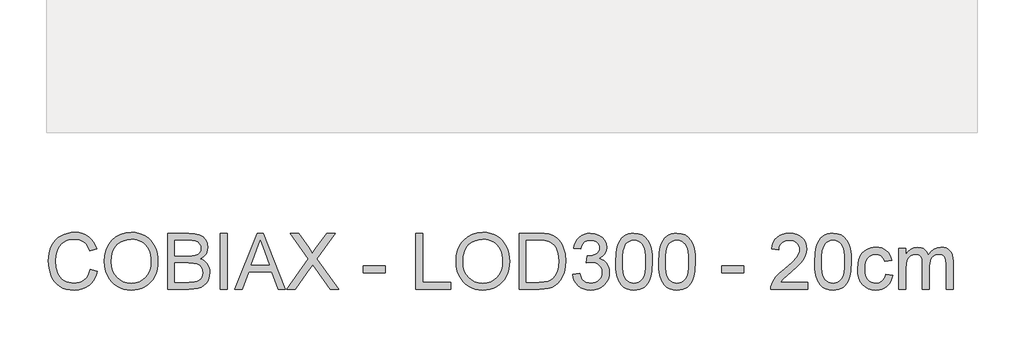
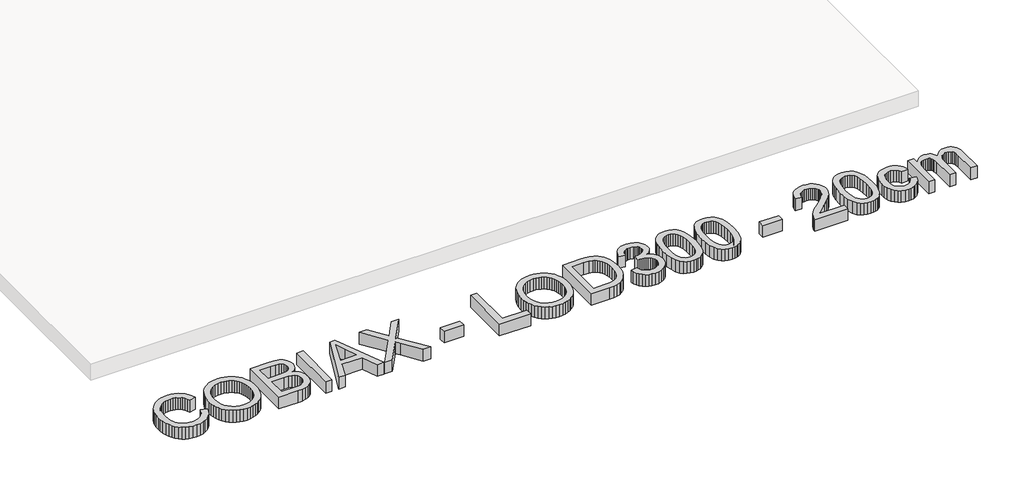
# One storey, part 18 of 18: 1 proxy.
"""IFC4 building model written with IfcOpenShell, lengths in millimetres."""

import ifcopenshell
import ifcopenshell.guid

model = None  # the IFC model being written
_history = None  # IfcOwnerHistory: only IFC2X3 demands one
_inside = {}  # id of a spatial element -> (the spatial element, [elements in it])
_under = {}  # id of a project, library or spatial element -> (it, [spatial elements below it])
_declared = {}  # id of a project -> (the project, [libraries it declares])
_typed = {}  # id of a type object -> (the type object, [elements of that type])
_made_of = {}  # id of a material, layer set ... -> (it, [elements and type objects made of it])


def new_model(schema):
    """Start an empty IFC model of exactly this schema.

    Asked for "IFC4X3", IfcOpenShell would pick the latest addendum, in which some entities
    have other attributes; the version numbers below select the first issue.
    IFC2X3 requires an IfcOwnerHistory on every rooted entity: one is made here for all.
    """
    global model, _history
    if schema == "IFC4X3":
        model = ifcopenshell.file(schema_version=(4, 3, 0, 0))
    else:
        model = ifcopenshell.file(schema=schema)
    _inside.clear()
    _under.clear()
    _declared.clear()
    _typed.clear()
    _made_of.clear()
    _history = None
    if model.schema == "IFC2X3":
        org = make("IfcOrganization", Name="unknown")
        user = make(
            "IfcPersonAndOrganization",
            ThePerson=make("IfcPerson", FamilyName="unknown"),
            TheOrganization=org,
        )
        app = make(
            "IfcApplication",
            ApplicationDeveloper=org,
            Version="unknown",
            ApplicationFullName="unknown",
            ApplicationIdentifier="unknown",
        )
        _history = make(
            "IfcOwnerHistory",
            OwningUser=user,
            OwningApplication=app,
            ChangeAction="ADDED",
            CreationDate=0,
        )
    return model


def make(cls, **values):
    """One entity of the class cls with the attributes given. An attribute that is None is left unset."""
    return model.create_entity(
        cls, **{name: value for name, value in values.items() if value is not None}
    )


def rooted(cls, **values):
    """An entity with a GlobalId (a new one), such as an element, a storey or a relation."""
    return make(cls, GlobalId=ifcopenshell.guid.new(), OwnerHistory=_history, **values)


def si_unit(unit_type, name, prefix=None):
    """IfcSIUnit, for example si_unit("LENGTHUNIT", "METRE", prefix="MILLI")."""
    return make("IfcSIUnit", UnitType=unit_type, Prefix=prefix, Name=name)


def assignment(units):
    """IfcUnitAssignment: the units of a project."""
    return None if units is None else make("IfcUnitAssignment", Units=units)


def point(xyz):
    """IfcCartesianPoint."""
    return None if xyz is None else make("IfcCartesianPoint", Coordinates=xyz)


def direction(xyz):
    """IfcDirection."""
    return None if xyz is None else make("IfcDirection", DirectionRatios=xyz)


def frame(location, z_axis=None, x_axis=None):
    """IfcAxis2Placement3D, a coordinate frame: its origin and axes. An axis left out is left unset."""
    return make(
        "IfcAxis2Placement3D",
        Location=point(location),
        Axis=direction(z_axis),
        RefDirection=direction(x_axis),
    )


def origin():
    """The frame at (0, 0, 0) with its axes left unset."""
    return frame((0.0, 0.0, 0.0))


def origin_with_axes():
    """The frame at (0, 0, 0) with the z axis (0, 0, 1) and the x axis (1, 0, 0) written out."""
    return frame((0.0, 0.0, 0.0), z_axis=(0.0, 0.0, 1.0), x_axis=(1.0, 0.0, 0.0))


def place(relative_to, where):
    """IfcLocalPlacement: puts the frame where relative to a parent placement (None: the world)."""
    return make(
        "IfcLocalPlacement", PlacementRelTo=relative_to, RelativePlacement=where
    )


def context(
    kind, dimensions, precision=None, world=None, true_north=None, identifier=None
):
    """IfcGeometricRepresentationContext, for example the 3D "Model" context."""
    return make(
        "IfcGeometricRepresentationContext",
        ContextIdentifier=identifier,
        ContextType=kind,
        CoordinateSpaceDimension=dimensions,
        Precision=precision,
        WorldCoordinateSystem=world,
        TrueNorth=true_north,
    )


def project(units=None, contexts=None):
    """IfcProject with its units and contexts."""
    return rooted(
        "IfcProject",
        Name="project",
        RepresentationContexts=contexts,
        UnitsInContext=assignment(units),
    )


def spatial(cls, under=None, at=None, **own):
    """A site, building, storey or space (cls), placed at a placement, below another one or the project."""
    s = rooted(cls, ObjectPlacement=at, **own)
    if under is not None:
        _under.setdefault(under.id(), (under, []))[1].append(s)
    return s


def polyline(points):
    """IfcPolyline through the points."""
    return make("IfcPolyline", Points=[point(p) for p in points])


def outline(outer, holes=None, kind="AREA"):
    """IfcArbitraryClosedProfileDef: a profile drawn as a closed curve; with holes, ...WithVoids."""
    if holes is None:
        return make("IfcArbitraryClosedProfileDef", ProfileType=kind, OuterCurve=outer)
    return make(
        "IfcArbitraryProfileDefWithVoids",
        ProfileType=kind,
        OuterCurve=outer,
        InnerCurves=holes,
    )


def extrude(swept, where, along, depth):
    """IfcExtrudedAreaSolid: the profile swept, set in the frame where, extruded along a direction by depth."""
    return make(
        "IfcExtrudedAreaSolid",
        SweptArea=swept,
        Position=where,
        ExtrudedDirection=direction(along),
        Depth=depth,
    )


def shape(context_of_items, identifier, shape_type, items):
    """IfcShapeRepresentation: the items that make up one representation, for example the "Body"."""
    return make(
        "IfcShapeRepresentation",
        ContextOfItems=context_of_items,
        RepresentationIdentifier=identifier,
        RepresentationType=shape_type,
        Items=items,
    )


def made_of(thing, what):
    """Note that an element or type object is made of a material, layer set ...; save() writes the relation."""
    if what is not None:
        _made_of.setdefault(what.id(), (what, []))[1].append(thing)
    return thing


def element(
    cls,
    number,
    at=None,
    inside=None,
    cuts=None,
    type_object=None,
    material=None,
    context=None,
    identifier="Body",
    shape_type=None,
    held_by="IfcProductDefinitionShape",
    body=None,
    shapes=None,
    **own,
):
    """One element of the class cls, such as IfcWall. Its Tag is "e" and its number.

    at: its placement. inside: the storey or other place that contains it. cuts: it is an
    opening in that element (IfcRelVoidsElement). A single representation is given by context,
    identifier, shape_type and body (its items); several are given by shapes. held_by: the class
    of the entity that holds the representations. save() writes the other relations.
    """
    e = rooted(cls, Tag="e%d" % number, ObjectPlacement=at, **own)
    if body is not None:
        shapes = [shape(context, identifier, shape_type, body)]
    if shapes is not None:
        e.Representation = make(held_by, Representations=shapes)
    if inside is not None:
        _inside.setdefault(inside.id(), (inside, []))[1].append(e)
    if cuts is not None:
        rooted(
            "IfcRelVoidsElement", RelatingBuildingElement=cuts, RelatedOpeningElement=e
        )
    if type_object is not None:
        _typed.setdefault(type_object.id(), (type_object, []))[1].append(e)
    return made_of(e, material)


def aggregate(whole, parts):
    """IfcRelAggregates: a whole, such as a stair, and the parts it consists of."""
    return rooted("IfcRelAggregates", RelatingObject=whole, RelatedObjects=parts)


def save(model, path):
    """Write the relations noted so far, then the file.

    IfcRelAggregates (storeys below a building ...), IfcRelContainedInSpatialStructure (elements
    in a storey), IfcRelDefinesByType, IfcRelAssociatesMaterial and IfcRelDeclares: one each for
    every whole, place, type object, material and project.
    """
    for whole, parts in _under.values():
        aggregate(whole, parts)
    for where, things in _inside.values():
        rooted(
            "IfcRelContainedInSpatialStructure",
            RelatedElements=things,
            RelatingStructure=where,
        )
    for kind, things in _typed.values():
        rooted("IfcRelDefinesByType", RelatedObjects=things, RelatingType=kind)
    for what, things in _made_of.values():
        rooted("IfcRelAssociatesMaterial", RelatedObjects=things, RelatingMaterial=what)
    for by, libraries in _declared.values():
        rooted("IfcRelDeclares", RelatingContext=by, RelatedDefinitions=libraries)
    model.write(path)


model = new_model("IFC4")

# Units and contexts
model_context = context("Model", 3, world=origin())
ifc_project = project(units=[si_unit("LENGTHUNIT", "METRE", prefix="MILLI")], contexts=[model_context])

# Site, building, storey
site = spatial("IfcSite", under=ifc_project)
building = spatial("IfcBuilding", under=site)
storey = spatial("IfcBuildingStorey", under=building, Name="COBIAX Slabs", Elevation=0.0)

# Proxy
placement = place(None, origin())
element("IfcBuildingElementProxy", 1, Name="600mm Arial", ObjectType="600mm Arial", at=placement, inside=storey, context=model_context, shape_type="SweptSolid", body=[
    extrude(outline(polyline([(9798.2153953, 9905.258219), (9873.5576279, 9885.8340497), (9858.64921, 9838.9796791), (9838.7927794, 9798.0390115), (9813.9883358, 9763.0120471), (9784.2358795, 9733.8987857), (9750.2067949, 9711.0119271), (9712.5724668, 9694.6641709), (9671.3328952, 9684.8555172), (9626.4880799, 9681.585966), (9580.5442173, 9684.0599724), (9539.097712, 9691.4819916), (9502.1485641, 9703.8520237), (9469.6967736, 9721.1700687), (9441.2962836, 9743.178609), (9416.5010371, 9769.6201274), (9395.3110342, 9800.4946239), (9377.7262748, 9835.8020983), (9363.9169044, 9874.0158406), (9354.0530684, 9913.6091403), (9348.1347668, 9954.5819975), (9346.1619996, 9996.9344122), (9348.3922842, 10042.3770357), (9355.083138, 10084.8214209), (9366.234561, 10124.2675678), (9381.8465531, 10160.7154765), (9401.5696266, 10193.5627401), (9425.0542935, 10222.206952), (9452.3005538, 10246.648112), (9483.3084074, 10266.8862203), (9517.0247923, 10282.7557299), (9552.3966461, 10294.0910938), (9589.4239689, 10300.8923122), (9628.1067607, 10303.159385), (9671.1995379, 10300.2255261), (9710.7146627, 10291.4239494), (9746.6521351, 10276.7546548), (9779.0119551, 10256.2176424), (9807.2606938, 10230.3555382), (9830.8649224, 10199.710968), (9849.8246407, 10164.2839318), (9864.1398488, 10124.0744298), (9788.7976162, 10106.1217884), (9776.9334219, 10135.7500846), (9762.6779946, 10161.0649644), (9746.0313343, 10182.0664278), (9726.993441, 10198.7544748), (9705.4539502, 10211.4693962), (9681.3024972, 10220.551483), (9654.5390821, 10226.0007351), (9625.1637048, 10227.8171524), (9591.3645465, 10225.8029985), (9560.4532618, 10219.7605367), (9532.4298508, 10209.6897671), (9507.2943135, 10195.5906896), (9485.3639481, 10178.0979008), (9466.9560527, 10157.8459969), (9452.0706275, 10134.8349781), (9440.7076724, 10109.0648444), (9426.3050923, 10053.9193333), (9421.5042322, 9997.081565), (9427.1880091, 9927.4782915), (9434.2927301, 9896.208322), (9444.2393395, 9867.2927971), (9457.1887858, 9841.3065327), (9473.3020171, 9818.8243443), (9492.5790337, 9799.8462318), (9515.0198354, 9784.3721954), (9539.5345719, 9772.3654468), (9565.0333926, 9763.7891978), (9591.5162978, 9758.6434484), (9618.9832872, 9756.9281986), (9651.7385804, 9759.2642493), (9681.8727143, 9766.2724013), (9709.385689, 9777.9526546), (9734.2775045, 9794.3050093), (9755.9595496, 9815.2558889), (9773.8432131, 9840.7317171), (9787.928495, 9870.7324938), (9798.2153953, 9905.258219)])), origin_with_axes(), (0.0, 0.0, 1.0), 150.0),
    extrude(outline(polyline([(9948.8998605, 9984.4264244), (9953.9214497, 10055.1241468), (9968.9862175, 10117.7100713), (9994.0941636, 10172.1841977), (10010.4143286, 10196.3793367), (10029.2452883, 10218.5465261), (10072.3334669, 10255.5646519), (10121.2525753, 10282.0061703), (10176.0026132, 10297.8710813), (10236.5835807, 10303.159385), (10277.1333737, 10300.6761816), (10315.6414215, 10293.2265712), (10352.1077243, 10280.8105538), (10386.532282, 10263.4281295), (10417.9494044, 10241.6035302), (10445.3934012, 10215.8609876), (10468.8642725, 10186.2005017), (10488.3620182, 10152.6220726), (10503.6843033, 10115.8890554), (10514.6287927, 10076.7648052), (10521.1954863, 10035.249322), (10523.3843842, 9991.3426059), (10521.0805232, 9946.8564756), (10514.1689402, 9904.7799724), (10502.6496352, 9865.1130963), (10486.5226083, 9827.8558473), (10466.1695369, 9793.9923096), (10441.9720986, 9764.5065677), (10413.9302936, 9739.3986215), (10382.0441216, 9718.6684711), (10347.5689802, 9702.4448751), (10311.7602665, 9690.8565922), (10274.6179805, 9683.9036225), (10236.1421223, 9681.585966), (10194.8841566, 9684.1473444), (10155.870271, 9691.8314795), (10119.1004656, 9704.6383715), (10084.5747403, 9722.5680202), (10053.1944061, 9744.9260485), (10025.8607739, 9771.018079), (10002.5738436, 9800.8441118), (9983.3336153, 9834.4041468), (9968.2688476, 9870.3508162), (9957.5082992, 9907.3367523), (9951.0519702, 9945.361955), (9948.8998605, 9984.4264244)]), holes=[polyline([(10024.2420931, 9983.6906604), (10028.0082851, 9933.7414825), (10039.3068608, 9889.402505), (10058.1378205, 9850.673728), (10084.5011639, 9817.5551514), (10116.5482842, 9791.0308595), (10152.4305743, 9772.0849368), (10192.1480343, 9760.7173831), (10235.700664, 9756.9281986), (10279.9982547, 9760.7541713), (10320.1847641, 9772.2320896), (10356.2601923, 9791.3619533), (10388.2245392, 9818.1437626), (10414.3947446, 9851.961315), (10433.0877485, 9892.1984082), (10444.3035508, 9938.8550422), (10448.0421516, 9991.9312171), (10446.4418649, 10026.4109571), (10441.6410049, 10058.6282228), (10433.6395715, 10088.5830143), (10422.4375647, 10116.2753315), (10408.1591448, 10141.3418909), (10390.9284718, 10163.4194092), (10370.7455459, 10182.5078862), (10347.6103669, 10198.607322), (10322.2403048, 10211.3866228), (10295.3527295, 10220.5146948), (10266.9476409, 10225.991538), (10237.0250391, 10227.8171524), (10194.9853241, 10224.2992808), (10155.9806356, 10213.7456661), (10120.0109735, 10196.1563082), (10087.0763379, 10171.5312071), (10059.5863558, 10138.6839435), (10039.9506543, 10096.4280978), (10028.1692334, 10044.7636701), (10024.2420931, 9983.6906604)])]), origin_with_axes(), (0.0, 0.0, 1.0), 150.0),
    extrude(outline(polyline([(10626.979954, 9691.003745), (10626.979954, 10293.7416059), (10856.9797774, 10293.7416059), (10920.2370865, 10289.3086279), (10969.6252443, 10276.0096938), (10989.7024042, 10265.9527197), (11007.4803016, 10253.5137098), (11022.9589366, 10238.6926639), (11036.1383091, 10221.4895821), (11054.1829209, 10183.8184658), (11060.1977915, 10144.3815159), (11055.1394141, 10108.0899571), (11039.9642818, 10073.968902), (11014.56203, 10044.1152781), (10978.8222942, 10020.6260127), (11001.562, 10010.9323222), (11021.5149998, 9998.3323638), (11038.6812934, 9982.8261377), (11053.0608808, 9964.4136439), (11064.423836, 9943.6559023), (11072.5402325, 9921.113933), (11077.4100704, 9896.7877361), (11079.0333497, 9870.6773115), (11074.6003717, 9828.6467935), (11061.3014375, 9789.6696962), (11041.4542039, 9756.5235284), (11017.3763273, 9731.9857993), (10987.8905854, 9714.2170989), (10951.8197558, 9701.3780173), (10907.986616, 9693.5973131), (10855.2139438, 9691.003745), (10626.979954, 9691.003745)]), holes=[polyline([(10702.3221866, 10048.87935), (10839.9100528, 10048.87935), (10888.0290178, 10050.4980307), (10920.2554806, 10055.3540731), (10948.3800591, 10066.5192916), (10968.5951747, 10083.2395283), (10980.7904629, 10105.2572657), (10984.8555589, 10132.3149865), (10981.0663744, 10158.5817609), (10969.6988207, 10181.464021), (10951.2679328, 10199.3246919), (10926.2887453, 10210.5266986), (10887.9554414, 10216.4312047), (10829.4622042, 10218.3993733), (10702.3221866, 10218.3993733), (10702.3221866, 10048.87935)]), polyline([(10702.3221866, 9766.3459777), (10856.8326246, 9766.3459777), (10912.7506879, 9769.2890336), (10938.7047626, 9775.818939), (10960.0603125, 9785.6965706), (10977.4243426, 9799.8416333), (10991.4038584, 9819.1738322), (11000.6193024, 9842.8286445), (11003.6911171, 9869.9415475), (11000.0858735, 9901.4322463), (10989.2701429, 9928.5083611), (10970.3794024, 9949.67997), (10942.5491295, 9963.4571507), (10903.1305737, 9971.0171257), (10849.4749847, 9973.5371173), (10702.3221866, 9973.5371173), (10702.3221866, 9766.3459777)])]), origin_with_axes(), (0.0, 0.0, 1.0), 150.0),
    extrude(outline(polyline([(11192.0466986, 9691.003745), (11192.0466986, 10293.7416059), (11267.3889312, 10293.7416059), (11267.3889312, 9691.003745), (11192.0466986, 9691.003745)])), origin_with_axes(), (0.0, 0.0, 1.0), 150.0),
    extrude(outline(polyline([(11347.8815118, 9691.003745), (11588.4763366, 10293.7416059), (11652.6349566, 10293.7416059), (11893.2297814, 9691.003745), (11813.6201177, 9691.003745), (11744.6054554, 9879.3593266), (11496.358685, 9879.3593266), (11427.4911755, 9691.003745), (11347.8815118, 9691.003745)]), holes=[polyline([(11524.0234111, 9954.7015592), (11717.0878821, 9954.7015592), (11662.7884996, 10102.8844268), (11620.5556466, 10218.3993733), (11583.0316831, 10115.8338731), (11524.0234111, 9954.7015592)])]), origin_with_axes(), (0.0, 0.0, 1.0), 150.0),
    extrude(outline(polyline([(11907.7979084, 9691.003745), (12140.1521766, 10019.4487903), (11945.4690247, 10293.7416059), (12035.8208428, 10293.7416059), (12145.4496773, 10139.3783208), (12171.6060872, 10100.2724647), (12182.3850296, 10079.1928264), (12225.6479523, 10140.4083904), (12334.0995644, 10293.7416059), (12425.7757576, 10293.7416059), (12231.0926058, 10018.5658736), (12463.4468739, 9691.003745), (12373.0950559, 9691.003745), (12218.2903124, 9909.3784974), (12186.0638496, 9954.7015592), (12150.6000252, 9904.9639134), (11999.4741016, 9691.003745), (11907.7979084, 9691.003745)])), origin_with_axes(), (0.0, 0.0, 1.0), 150.0),
    extrude(outline(polyline([(12727.1446881, 9869.9415475), (12727.1446881, 9945.2837801), (12962.589165, 9945.2837801), (12962.589165, 9869.9415475), (12727.1446881, 9869.9415475)])), origin_with_axes(), (0.0, 0.0, 1.0), 150.0),
    extrude(outline(polyline([(13292.2114327, 9691.003745), (13292.2114327, 10293.7416059), (13367.5536653, 10293.7416059), (13367.5536653, 9766.3459777), (13668.9225957, 9766.3459777), (13668.9225957, 9691.003745), (13292.2114327, 9691.003745)])), origin_with_axes(), (0.0, 0.0, 1.0), 150.0),
    extrude(outline(polyline([(13725.4292702, 9984.4264244), (13730.4508594, 10055.1241468), (13745.5156271, 10117.7100713), (13770.6235733, 10172.1841977), (13786.9437383, 10196.3793367), (13805.7746979, 10218.5465261), (13848.8628766, 10255.5646519), (13897.7819849, 10282.0061703), (13952.5320229, 10297.8710813), (14013.1129904, 10303.159385), (14053.6627833, 10300.6761816), (14092.1708312, 10293.2265712), (14128.637134, 10280.8105538), (14163.0616917, 10263.4281295), (14194.4788141, 10241.6035302), (14221.9228109, 10215.8609876), (14245.3936822, 10186.2005017), (14264.8914279, 10152.6220726), (14280.213713, 10115.8890554), (14291.1582024, 10076.7648052), (14297.724896, 10035.249322), (14299.9137939, 9991.3426059), (14297.6099329, 9946.8564756), (14290.6983499, 9904.7799724), (14279.1790449, 9865.1130963), (14263.052018, 9827.8558473), (14242.6989466, 9793.9923096), (14218.5015083, 9764.5065677), (14190.4597033, 9739.3986215), (14158.5735313, 9718.6684711), (14124.0983898, 9702.4448751), (14088.2896761, 9690.8565922), (14051.1473902, 9683.9036225), (14012.671532, 9681.585966), (13971.4135663, 9684.1473444), (13932.3996807, 9691.8314795), (13895.6298753, 9704.6383715), (13861.10415, 9722.5680202), (13829.7238158, 9744.9260485), (13802.3901836, 9771.018079), (13779.1032533, 9800.8441118), (13759.8630249, 9834.4041468), (13744.7982572, 9870.3508162), (13734.0377089, 9907.3367523), (13727.5813799, 9945.361955), (13725.4292702, 9984.4264244)]), holes=[polyline([(13800.7715028, 9983.6906604), (13804.5376947, 9933.7414825), (13815.8362705, 9889.402505), (13834.6672301, 9850.673728), (13861.0305736, 9817.5551514), (13893.0776939, 9791.0308595), (13928.959984, 9772.0849368), (13968.6774439, 9760.7173831), (14012.2300736, 9756.9281986), (14056.5276644, 9760.7541713), (14096.7141738, 9772.2320896), (14132.789602, 9791.3619533), (14164.7539488, 9818.1437626), (14190.9241543, 9851.961315), (14209.6171582, 9892.1984082), (14220.8329605, 9938.8550422), (14224.5715613, 9991.9312171), (14222.9712746, 10026.4109571), (14218.1704145, 10058.6282228), (14210.1689811, 10088.5830143), (14198.9669744, 10116.2753315), (14184.6885545, 10141.3418909), (14167.4578815, 10163.4194092), (14147.2749555, 10182.5078862), (14124.1397766, 10198.607322), (14098.7697145, 10211.3866228), (14071.8821392, 10220.5146948), (14043.4770506, 10225.991538), (14013.5544488, 10227.8171524), (13971.5147338, 10224.2992808), (13932.5100453, 10213.7456661), (13896.5403832, 10196.1563082), (13863.6057476, 10171.5312071), (13836.1157655, 10138.6839435), (13816.480064, 10096.4280978), (13804.6986431, 10044.7636701), (13800.7715028, 9983.6906604)])]), origin_with_axes(), (0.0, 0.0, 1.0), 150.0),
    extrude(outline(polyline([(14403.5093637, 9691.003745), (14403.5093637, 10293.7416059), (14611.4362674, 10293.7416059), (14673.5715364, 10291.5711022), (14719.0049628, 10285.0595909), (14767.0503513, 10268.3209601), (14807.5909472, 10241.943821), (14829.9305814, 10220.3859361), (14849.2719773, 10196.032148), (14865.6151349, 10168.8824568), (14878.9600543, 10138.9368624), (14889.3251295, 10106.4712763), (14896.7287546, 10071.7616101), (14902.6516548, 9995.6100371), (14898.641741, 9930.9179882), (14886.6119998, 9873.9882494), (14868.2914764, 9825.5197966), (14845.4092163, 9786.2116054), (14819.0688655, 9755.1807591), (14790.3740698, 9731.5443409), (14757.4302372, 9714.0147638), (14718.3427752, 9701.3044409), (14673.0381075, 9693.578919), (14621.4426577, 9691.003745), (14403.5093637, 9691.003745)]), holes=[polyline([(14478.8515963, 9766.3459777), (14612.1720314, 9766.3459777), (14667.3175425, 9769.0683044), (14709.1457253, 9777.2352847), (14740.7100005, 9790.3686719), (14765.0637886, 9807.9902195), (14791.2385925, 9840.6029584), (14810.9018852, 9882.8174173), (14823.2075379, 9934.8175374), (14827.3094222, 9996.7872594), (14825.2998668, 10040.5284287), (14819.2712006, 10078.8985208), (14809.2234236, 10111.8975357), (14795.1565358, 10139.5254736), (14778.2109714, 10162.4077337), (14759.5271645, 10181.1697154), (14739.1051153, 10195.8114188), (14716.9448236, 10206.3328439), (14673.6083246, 10215.382741), (14610.1118922, 10218.3993733), (14478.8515963, 10218.3993733), (14478.8515963, 9766.3459777)])]), origin_with_axes(), (0.0, 0.0, 1.0), 150.0),
    extrude(outline(polyline([(14977.9938874, 9851.1059893), (15053.33612, 9860.5237684), (15070.2035095, 9813.1773556), (15081.5756616, 9795.2706995), (15094.9067854, 9781.2084103), (15110.5003835, 9770.5858177), (15128.6599585, 9762.9982515), (15149.3855104, 9758.4457118), (15172.6770392, 9756.9281986), (15199.9738833, 9759.0159289), (15224.3276713, 9765.2791199), (15245.7384035, 9775.7177715), (15264.2060796, 9790.3318837), (15279.0777093, 9808.0270077), (15289.7003019, 9827.7086945), (15296.0738575, 9849.376944), (15298.198376, 9873.0317563), (15296.0922516, 9895.5599299), (15289.7738783, 9916.0555556), (15279.2432562, 9934.5186332), (15264.5003852, 9950.9491628), (15246.5109557, 9964.4366365), (15226.2406577, 9974.0705462), (15203.6894914, 9979.8508921), (15178.8574567, 9981.777674), (15155.0554917, 9979.7175349), (15126.0296022, 9973.5371173), (15134.4173117, 10048.87935), (15146.4838412, 10047.9964332), (15191.622962, 10053.4042985), (15231.9796168, 10069.6278945), (15248.5894889, 10081.896759), (15260.4536833, 10097.0718913), (15267.5721999, 10115.1532914), (15269.9450388, 10136.1409592), (15268.2251904, 10153.1784941), (15263.0656454, 10168.6801217), (15254.4664038, 10182.6458419), (15242.4274655, 10195.0756548), (15227.6753975, 10205.2797817), (15210.9367667, 10212.5684437), (15171.4998168, 10218.3993733), (15150.8432428, 10216.9278454), (15131.9892906, 10212.5132614), (15114.9379601, 10205.1556215), (15099.6892514, 10194.8549256), (15086.6202435, 10181.6111738), (15076.1080155, 10165.424366), (15068.1525673, 10146.2945023), (15062.7538991, 10124.2215826), (14987.4116665, 10133.6393616), (14996.3420019, 10169.6090237), (15009.5949508, 10201.2928606), (15027.1705131, 10228.6908721), (15049.0686888, 10251.8030585), (15074.5996993, 10270.151173), (15103.0737657, 10283.2569691), (15134.4908881, 10291.1204467), (15168.8510665, 10293.7416059), (15216.2158734, 10288.5728639), (15259.7179193, 10273.0666378), (15296.3957542, 10248.6024851), (15323.2879281, 10216.5599634), (15339.7874355, 10179.6430051), (15345.2872714, 10140.5555432), (15340.063347, 10104.1352256), (15324.391574, 10071.0994225), (15298.4926816, 10042.9564498), (15262.5873988, 10021.2146239), (15287.695345, 10013.3603433), (15309.7498706, 10002.1583366), (15328.7509757, 9987.6086037), (15344.6986602, 9969.7111446), (15357.3170126, 9948.9074178), (15366.3301215, 9925.6388816), (15371.7379868, 9899.905536), (15373.5406086, 9871.7073811), (15369.935365, 9833.4844418), (15359.1196344, 9798.2781348), (15341.0934166, 9766.0884603), (15315.8567117, 9736.915418), (15285.110974, 9712.7087828), (15250.5576576, 9695.418329), (15212.1967626, 9685.0440567), (15170.0282889, 9681.585966), (15131.9157142, 9684.538219), (15097.1876538, 9693.394978), (15065.8441078, 9708.1562431), (15037.8850762, 9728.8220142), (15014.4417961, 9754.1782807), (14996.6455045, 9783.011032), (14984.4962016, 9815.3202683), (14977.9938874, 9851.1059893)])), origin_with_axes(), (0.0, 0.0, 1.0), 150.0),
    extrude(outline(polyline([(15439.4650621, 9987.5166332), (15445.0016862, 10083.9936864), (15451.9224662, 10124.9067628), (15461.6115582, 10160.9362057), (15474.0275756, 10192.3763207), (15489.1291315, 10219.5214134), (15506.9162259, 10242.3714838), (15527.388859, 10260.926532), (15550.6160084, 10275.2831268), (15576.6666522, 10285.5378375), (15605.5407903, 10291.6906638), (15637.2384227, 10293.7416059), (15683.6651305, 10288.8855636), (15725.235796, 10274.3174366), (15760.0006445, 10250.607442), (15786.0099016, 10218.3257969), (15805.6548001, 10177.7484129), (15821.3265731, 10129.1512013), (15831.5904808, 10067.4389966), (15835.0117833, 9987.5166332), (15829.5303416, 9891.5914029), (15822.6785395, 9850.8162823), (15813.0860164, 9814.8328246), (15800.7665681, 9783.378914), (15785.7339901, 9756.1924346), (15767.9882823, 9733.2733863), (15747.5294449, 9714.6217691), (15724.2747043, 9700.1686053), (15698.141287, 9689.8449168), (15669.1291932, 9683.6507037), (15637.2384227, 9681.585966), (15595.7413337, 9685.1728154), (15558.9531342, 9695.9333638), (15526.8738242, 9713.867611), (15499.5034037, 9738.9755572), (15473.2366293, 9784.3629984), (15454.4746475, 9840.9156581), (15443.2174585, 9908.6335363), (15439.4650621, 9987.5166332)]), holes=[polyline([(15514.8072947, 9987.663786), (15517.0145867, 9922.1669952), (15523.6364626, 9869.1506012), (15534.6729225, 9828.6146039), (15550.1239663, 9800.5590032), (15568.8123716, 9781.4705262), (15589.5609162, 9767.8358997), (15612.3695999, 9759.6551239), (15637.2384227, 9756.9281986), (15662.1072456, 9759.6643209), (15684.9159293, 9767.8726879), (15705.6644738, 9781.5532996), (15724.3528792, 9800.706156), (15739.803923, 9828.8077419), (15750.8403828, 9869.3345422), (15757.4622588, 9922.2865569), (15759.6695507, 9987.663786), (15757.5358352, 10051.4269328), (15751.1346884, 10103.5098262), (15740.4661106, 10143.9124664), (15725.5301016, 10172.6348531), (15707.1543959, 10192.6568307), (15686.1667281, 10206.9582433), (15662.5670981, 10215.5390908), (15636.3555059, 10218.3993733), (15611.6154418, 10215.8793817), (15589.1930342, 10208.3194067), (15569.0882831, 10195.7194483), (15551.3011887, 10178.0795067), (15535.3351101, 10146.8095371), (15523.9307682, 10104.6502604), (15517.0881631, 10051.6016767), (15514.8072947, 9987.663786)])]), origin_with_axes(), (0.0, 0.0, 1.0), 150.0),
    extrude(outline(polyline([(15900.9362369, 9987.5166332), (15906.4728609, 10083.9936864), (15913.3936409, 10124.9067628), (15923.082733, 10160.9362057), (15935.4987503, 10192.3763207), (15950.6003062, 10219.5214134), (15968.3874007, 10242.3714838), (15988.8600337, 10260.926532), (16012.0871832, 10275.2831268), (16038.137827, 10285.5378375), (16067.0119651, 10291.6906638), (16098.7095975, 10293.7416059), (16145.1363053, 10288.8855636), (16186.7069707, 10274.3174366), (16221.4718193, 10250.607442), (16247.4810763, 10218.3257969), (16267.1259749, 10177.7484129), (16282.7977479, 10129.1512013), (16293.0616555, 10067.4389966), (16296.4829581, 9987.5166332), (16291.0015164, 9891.5914029), (16284.1497142, 9850.8162823), (16274.5571912, 9814.8328246), (16262.2377429, 9783.378914), (16247.2051648, 9756.1924346), (16229.4594571, 9733.2733863), (16209.0006196, 9714.6217691), (16185.745879, 9700.1686053), (16159.6124618, 9689.8449168), (16130.6003679, 9683.6507037), (16098.7095975, 9681.585966), (16057.2125084, 9685.1728154), (16020.4243089, 9695.9333638), (15988.3449989, 9713.867611), (15960.9745785, 9738.9755572), (15934.707804, 9784.3629984), (15915.9458223, 9840.9156581), (15904.6886332, 9908.6335363), (15900.9362369, 9987.5166332)]), holes=[polyline([(15976.2784695, 9987.663786), (15978.4857615, 9922.1669952), (15985.1076374, 9869.1506012), (15996.1440972, 9828.6146039), (16011.595141, 9800.5590032), (16030.2835464, 9781.4705262), (16051.0320909, 9767.8358997), (16073.8407746, 9759.6551239), (16098.7095975, 9756.9281986), (16123.5784204, 9759.6643209), (16146.3871041, 9767.8726879), (16167.1356486, 9781.5532996), (16185.8240539, 9800.706156), (16201.2750977, 9828.8077419), (16212.3115576, 9869.3345422), (16218.9334335, 9922.2865569), (16221.1407255, 9987.663786), (16219.0070099, 10051.4269328), (16212.6058632, 10103.5098262), (16201.9372853, 10143.9124664), (16187.0012763, 10172.6348531), (16168.6255707, 10192.6568307), (16147.6379028, 10206.9582433), (16124.0382729, 10215.5390908), (16097.8266807, 10218.3993733), (16073.0866165, 10215.8793817), (16050.6642089, 10208.3194067), (16030.5594579, 10195.7194483), (16012.7723634, 10178.0795067), (15996.8062848, 10146.8095371), (15985.401943, 10104.6502604), (15978.5593379, 10051.6016767), (15976.2784695, 9987.663786)])]), origin_with_axes(), (0.0, 0.0, 1.0), 150.0),
    extrude(outline(polyline([(16579.0163304, 9869.9415475), (16579.0163304, 9945.2837801), (16814.4608073, 9945.2837801), (16814.4608073, 9869.9415475), (16579.0163304, 9869.9415475)])), origin_with_axes(), (0.0, 0.0, 1.0), 150.0),
    extrude(outline(polyline([(17501.9586799, 9766.3459777), (17501.9586799, 9691.003745), (17106.4119587, 9691.003745), (17108.0674277, 9717.5280369), (17114.5053626, 9742.9486828), (17133.0834033, 9783.5444609), (17160.2698828, 9822.9262285), (17199.5964681, 9864.1474061), (17254.5948263, 9910.2614142), (17335.8967473, 9982.4766498), (17384.6778998, 10035.7827509), (17398.905736, 10057.561365), (17409.0684761, 10079.0456736), (17415.1661202, 10100.2356765), (17417.1986682, 10121.1313738), (17415.2810833, 10140.7900679), (17409.5283286, 10158.8576724), (17399.9404041, 10175.3341873), (17386.5173098, 10190.2196125), (17370.0040067, 10202.5482579), (17351.145456, 10211.3544331), (17329.9416575, 10216.6381383), (17306.3926113, 10218.3993733), (17281.5835692, 10216.679525), (17259.3956864, 10211.51998), (17239.8289627, 10202.9207384), (17222.8833983, 10190.8818001), (17209.1751955, 10175.8078353), (17199.3205566, 10158.1035143), (17193.3194815, 10137.768837), (17191.1719704, 10114.8038035), (17115.8297378, 10124.2215826), (17122.3090594, 10163.1159065), (17134.0950788, 10197.0990058), (17151.187796, 10226.1708805), (17173.587211, 10250.3315305), (17200.778289, 10269.3234385), (17232.2459951, 10282.8890871), (17267.9903295, 10291.0284762), (17308.011292, 10293.7416059), (17348.3909395, 10290.7249736), (17384.3284119, 10281.6750765), (17415.8237092, 10266.5919147), (17442.8768315, 10245.4754882), (17464.6048618, 10219.8892954), (17480.1248835, 10191.3968349), (17489.4368965, 10159.9981066), (17492.5409008, 10125.6931105), (17489.1931747, 10089.6590691), (17479.1499962, 10054.2504271), (17461.3261135, 10018.2347798), (17434.6362748, 9980.3797225), (17392.090722, 9935.1854193), (17326.6996974, 9877.1520346), (17240.0266993, 9804.6792816), (17206.034403, 9766.3459777), (17501.9586799, 9766.3459777)])), origin_with_axes(), (0.0, 0.0, 1.0), 150.0),
    extrude(outline(polyline([(17577.3009125, 9987.5166332), (17582.8375365, 10083.9936864), (17589.7583166, 10124.9067628), (17599.4474086, 10160.9362057), (17611.8634259, 10192.3763207), (17626.9649818, 10219.5214134), (17644.7520763, 10242.3714838), (17665.2247093, 10260.926532), (17688.4518588, 10275.2831268), (17714.5025026, 10285.5378375), (17743.3766407, 10291.6906638), (17775.0742731, 10293.7416059), (17821.5009809, 10288.8855636), (17863.0716464, 10274.3174366), (17897.8364949, 10250.607442), (17923.845752, 10218.3257969), (17943.4906505, 10177.7484129), (17959.1624235, 10129.1512013), (17969.4263312, 10067.4389966), (17972.8476337, 9987.5166332), (17967.366192, 9891.5914029), (17960.5143898, 9850.8162823), (17950.9218668, 9814.8328246), (17938.6024185, 9783.378914), (17923.5698405, 9756.1924346), (17905.8241327, 9733.2733863), (17885.3652953, 9714.6217691), (17862.1105546, 9700.1686053), (17835.9771374, 9689.8449168), (17806.9650436, 9683.6507037), (17775.0742731, 9681.585966), (17733.5771841, 9685.1728154), (17696.7889845, 9695.9333638), (17664.7096746, 9713.867611), (17637.3392541, 9738.9755572), (17611.0724797, 9784.3629984), (17592.3104979, 9840.9156581), (17581.0533089, 9908.6335363), (17577.3009125, 9987.5166332)]), holes=[polyline([(17652.6431451, 9987.663786), (17654.8504371, 9922.1669952), (17661.472313, 9869.1506012), (17672.5087729, 9828.6146039), (17687.9598166, 9800.5590032), (17706.648222, 9781.4705262), (17727.3967665, 9767.8358997), (17750.2054502, 9759.6551239), (17775.0742731, 9756.9281986), (17799.943096, 9759.6643209), (17822.7517797, 9767.8726879), (17843.5003242, 9781.5532996), (17862.1887296, 9800.706156), (17877.6397734, 9828.8077419), (17888.6762332, 9869.3345422), (17895.2981091, 9922.2865569), (17897.5054011, 9987.663786), (17895.3716855, 10051.4269328), (17888.9705388, 10103.5098262), (17878.301961, 10143.9124664), (17863.3659519, 10172.6348531), (17844.9902463, 10192.6568307), (17824.0025785, 10206.9582433), (17800.4029485, 10215.5390908), (17774.1913563, 10218.3993733), (17749.4512921, 10215.8793817), (17727.0288845, 10208.3194067), (17706.9241335, 10195.7194483), (17689.137039, 10178.0795067), (17673.1709604, 10146.8095371), (17661.7666186, 10104.6502604), (17654.9240135, 10051.6016767), (17652.6431451, 9987.663786)])]), origin_with_axes(), (0.0, 0.0, 1.0), 150.0),
    extrude(outline(polyline([(18340.1410177, 9851.1059893), (18415.4832503, 9841.6882103), (18407.2886789, 9806.137014), (18394.4771884, 9774.6785048), (18377.0487789, 9747.3126829), (18355.0034503, 9724.0395482), (18329.2701047, 9705.466106), (18300.7776442, 9692.1993615), (18269.5260687, 9684.2393149), (18235.5153783, 9681.585966), (18193.2595326, 9685.2877785), (18155.3722856, 9696.3932163), (18121.8536373, 9714.9022792), (18092.7035877, 9740.8149672), (18069.1085563, 9773.6438367), (18052.2549624, 9812.9014441), (18042.142806, 9858.5877894), (18038.7720873, 9910.7028726), (18044.5294405, 9977.7493662), (18051.726132, 10007.9202883), (18061.8015001, 10035.8563273), (18074.8245228, 10060.9964632), (18090.8641778, 10082.7796758), (18109.9204651, 10101.2059652), (18131.9933848, 10116.2753315), (18156.085057, 10127.992373), (18181.1976017, 10136.3616884), (18207.3310189, 10141.3832776), (18234.4853087, 10143.0571407), (18267.9119865, 10140.7578783), (18298.1472879, 10133.8600908), (18325.1912131, 10122.3637785), (18349.043762, 10106.2689412), (18369.3002643, 10085.943461), (18385.55605, 10061.7552198), (18397.811119, 10033.7042177), (18406.0654712, 10001.7904546), (18330.7232386, 9992.3726755), (18317.0564225, 10025.2429318), (18295.7744491, 10048.8057736), (18268.0545407, 10062.9876245), (18235.0739199, 10067.7149081), (18209.4739315, 10065.3880545), (18186.3847378, 10058.4074936), (18165.8063387, 10046.7732255), (18147.7387342, 10030.4852502), (18133.0280529, 10009.1664886), (18122.5204235, 9982.4398616), (18116.2158458, 9950.3053693), (18114.1143199, 9912.7630117), (18116.1698605, 9874.6550356), (18122.3364825, 9842.1480628), (18132.6141857, 9815.2420933), (18147.0029702, 9793.9371273), (18164.7118898, 9777.745721), (18184.949998, 9766.1804308), (18207.717295, 9759.2412566), (18233.0137807, 9756.9281986), (18272.0276663, 9762.7039459), (18288.8996543, 9769.9236301), (18304.0150058, 9780.0311879), (18316.9506564, 9793.136984), (18327.283542, 9809.3513829), (18335.0136624, 9828.6743847), (18340.1410177, 9851.1059893)])), origin_with_axes(), (0.0, 0.0, 1.0), 150.0),
    extrude(outline(polyline([(18481.4077038, 9691.003745), (18481.4077038, 10133.6393616), (18556.7499365, 10133.6393616), (18556.7499365, 10060.7987266), (18579.4114674, 10094.2575941), (18608.5477214, 10120.4691862), (18643.1654171, 10137.4101521), (18682.2712732, 10143.0571407), (18724.1730325, 10137.2997875), (18742.0061122, 10130.103096), (18757.7606586, 10120.0277278), (18782.8502107, 10092.3813959), (18799.2577477, 10055.5012259), (18826.7201386, 10093.8069386), (18858.0452905, 10121.168162), (18893.2332033, 10137.584896), (18932.2838771, 10143.0571407), (18962.4456022, 10140.7808709), (18988.9193103, 10133.9520613), (19011.7050014, 10122.5707121), (19030.8026754, 10106.6368232), (19045.8996328, 10085.9664536), (19056.6831738, 10060.3756623), (19063.1532984, 10029.8644493), (19065.3100066, 9994.4328147), (19065.3100066, 9691.003745), (18989.967774, 9691.003745), (18989.967774, 9962.0591991), (18988.2203345, 9999.6383449), (18982.9780161, 10024.9670203), (18973.1555668, 10042.3126563), (18957.6677348, 10055.9426843), (18937.7469248, 10064.7718521), (18914.6255414, 10067.7149081), (18893.2745901, 10065.8295129), (18873.809034, 10060.1733272), (18856.2288732, 10050.7463511), (18840.5341075, 10037.5485845), (18827.626048, 10020.1937514), (18818.4060055, 9998.2955756), (18812.87398, 9971.8540572), (18811.0299715, 9940.8691962), (18811.0299715, 9691.003745), (18735.6877389, 9691.003745), (18735.6877389, 9970.4469086), (18731.3283373, 10013.0476436), (18725.8790852, 10029.7678803), (18718.2501323, 10043.4346964), (18708.137976, 10054.057289), (18695.2391135, 10061.6448552), (18679.553545, 10066.1973949), (18661.0812703, 10067.7149081), (18632.0553809, 10063.6682062), (18605.3103598, 10051.5281003), (18583.2374401, 10031.5888962), (18568.2278547, 10004.1448993), (18559.619416, 9966.0691128), (18556.7499365, 9914.2345397), (18556.7499365, 9691.003745), (18481.4077038, 9691.003745)])), origin_with_axes(), (0.0, 0.0, 1.0), 150.0),
])

save(model, "model.ifc")
